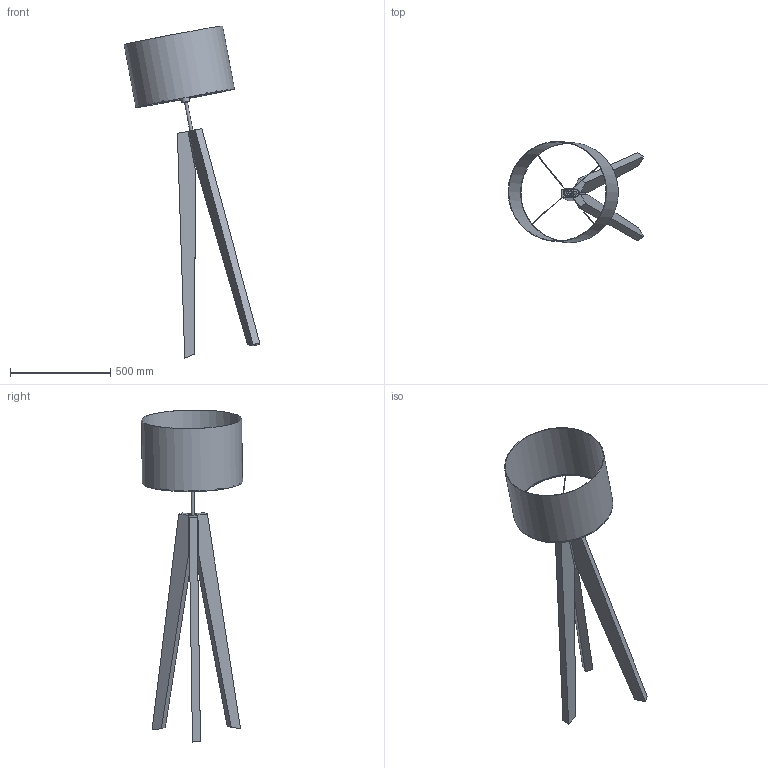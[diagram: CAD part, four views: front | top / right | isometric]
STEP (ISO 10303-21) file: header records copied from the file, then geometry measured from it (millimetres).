
FILE_DESCRIPTION(/* description */ (''),/* implementation_level */ '2;1');
FILE_NAME(/* name */ 'D:\TK Lighting\Treviso\Lampa czarna stojaca.stp',/* time_stamp */ '2020-10-19T19:40:35+02:00',/* author */ ('Admin'),/* organization */ (''),/* preprocessor_version */ 'ST-DEVELOPER v16.5',/* originating_system */ 'Autodesk Inventor 2017',/* authorisation */ '');
FILE_SCHEMA (('AUTOMOTIVE_DESIGN { 1 0 10303 214 3 1 1 }'));
Length unit declared in the file: millimetre
Products named in the file (4): Lampa czarna stojaca; Lacznik; Noga; Klosz od lampy nocnej czarny treviso 5039
Assembly tree (5 placements, depth 2):
  Lampa czarna stojaca
    Lacznik
    Noga  x3
    Klosz od lampy nocnej czarny treviso 5039
Bounding box: 677.53 x 504.79 x 1656.16 mm (x, y, z)
Volume: 10474635.8 mm3; surface area: 1817824.1 mm2
Topology: 5 solids, 5 shells, 121 faces, 294 edges, 190 vertices
Faces by surface type: plane 71, cylinder 48, torus 2
Full cylindrical faces by diameter (mm): 5 x3, 15 x5, 34 x1, 37 x1, 40 x2, 44 x1, 490 x1, 495 x1, 500 x1
Entity records: 3169 total; most frequent: CARTESIAN_POINT 638, DIRECTION 522, ORIENTED_EDGE 458, EDGE_CURVE 229, AXIS2_PLACEMENT_3D 202, VERTEX_POINT 158, EDGE_LOOP 129, LINE 118
